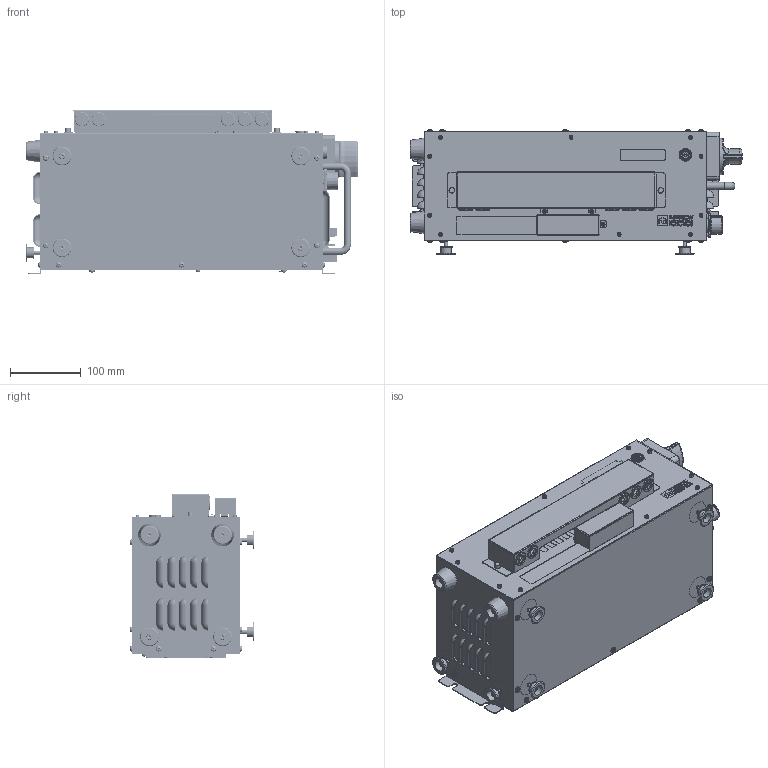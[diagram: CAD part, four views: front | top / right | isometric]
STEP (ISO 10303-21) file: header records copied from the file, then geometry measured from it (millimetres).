
FILE_DESCRIPTION(/* description */ (''),/* implementation_level */ '2;1');
FILE_NAME(/* name */ 'CB08 .stp',/* time_stamp */ '2024-01-19T15:01:20+09:00',/* author */ ('TK AHN'),/* organization */ (''),/* preprocessor_version */ 'ST-DEVELOPER v19.2',/* originating_system */ 'Autodesk Inventor 2023',/* authorisation */ '');
FILE_SCHEMA (('AUTOMOTIVE_DESIGN { 1 0 10303 214 3 1 1 }'));
Products named in the file (1): CB08
Bounding box: 470 x 176.56 x 232 mm (x, y, z)
Volume: 12282762.7 mm3; surface area: 766171.5 mm2
Topology: 88 solids, 100 shells, 3704 faces, 9768 edges, 6529 vertices
Faces by surface type: plane 1818, cylinder 766, cone 504, torus 280, bspline 236, sphere 100
Full cylindrical faces by diameter (mm): 1.7 x12, 2 x14, 2.2 x10, 2.459 x19, 2.5 x4, 2.6 x10, 2.693 x11, 3 x23, 3.242 x2, 3.3 x2, 3.4 x7, 3.5 x5, 3.571 x21, 4 x24, 4.134 x12, 4.3 x2, 5 x33, 5.5 x18, 5.6 x4, 5.9 x1, 6 x3, 6.4 x1, 7 x6, 7.5 x1, 7.6 x1, 8 x2, 8.5 x8, 9.3 x2, 10 x9, 11.5 x1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
Entity records: 146545 total; most frequent: CARTESIAN_POINT 51972, ORIENTED_EDGE 19374, DIRECTION 18201, EDGE_CURVE 9688, AXIS2_PLACEMENT_3D 6541, VERTEX_POINT 6528, LINE 5119, VECTOR 5119
